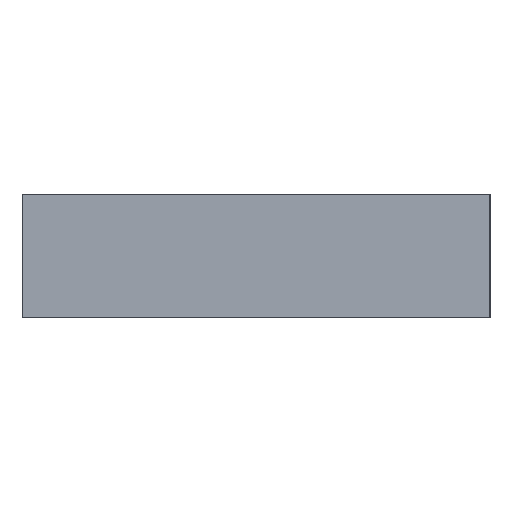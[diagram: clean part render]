
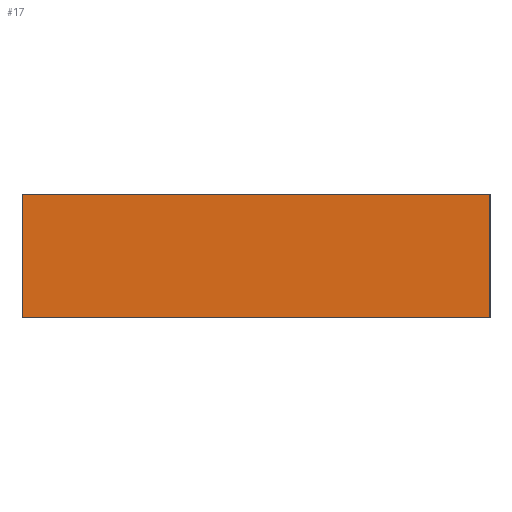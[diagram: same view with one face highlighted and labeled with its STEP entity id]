
A CAD part, left-side view. The second image highlights one B-rep face of the part: STEP entity #17.
In plain terms, the highlighted planar face has unit normal (-1, 0, 0).
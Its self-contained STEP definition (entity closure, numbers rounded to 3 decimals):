
#17 = ADVANCED_FACE('',(#18),#32,.F.);
#18 = FACE_BOUND('',#19,.F.);
#19 = EDGE_LOOP('',(#20,#55,#83,#111));
#20 = ORIENTED_EDGE('',*,*,#21,.F.);
#21 = EDGE_CURVE('',#22,#24,#26,.T.);
#22 = VERTEX_POINT('',#23);
#23 = CARTESIAN_POINT('',(-11.,-1.9,0.));
#24 = VERTEX_POINT('',#25);
#25 = CARTESIAN_POINT('',(-11.,-1.9,1.));
#26 = SURFACE_CURVE('',#27,(#31,#43),.PCURVE_S1.);
#27 = LINE('',#28,#29);
#28 = CARTESIAN_POINT('',(-11.,-1.9,0.));
#29 = VECTOR('',#30,1.);
#30 = DIRECTION('',(0.,0.,1.));
#31 = PCURVE('',#32,#37);
#32 = PLANE('',#33);
#33 = AXIS2_PLACEMENT_3D('',#34,#35,#36);
#34 = CARTESIAN_POINT('',(-11.,-1.9,0.));
#35 = DIRECTION('',(1.,0.,0.));
#36 = DIRECTION('',(0.,0.,1.));
#37 = DEFINITIONAL_REPRESENTATION('',(#38),#42);
#38 = LINE('',#39,#40);
#39 = CARTESIAN_POINT('',(0.,0.));
#40 = VECTOR('',#41,1.);
#41 = DIRECTION('',(1.,0.));
#42 = ( GEOMETRIC_REPRESENTATION_CONTEXT(2) 
PARAMETRIC_REPRESENTATION_CONTEXT() REPRESENTATION_CONTEXT('2D SPACE',''
  ) );
#43 = PCURVE('',#44,#49);
#44 = PLANE('',#45);
#45 = AXIS2_PLACEMENT_3D('',#46,#47,#48);
#46 = CARTESIAN_POINT('',(-11.,-1.9,0.));
#47 = DIRECTION('',(0.,1.,0.));
#48 = DIRECTION('',(0.,0.,1.));
#49 = DEFINITIONAL_REPRESENTATION('',(#50),#54);
#50 = LINE('',#51,#52);
#51 = CARTESIAN_POINT('',(0.,0.));
#52 = VECTOR('',#53,1.);
#53 = DIRECTION('',(1.,0.));
#54 = ( GEOMETRIC_REPRESENTATION_CONTEXT(2) 
PARAMETRIC_REPRESENTATION_CONTEXT() REPRESENTATION_CONTEXT('2D SPACE',''
  ) );
#55 = ORIENTED_EDGE('',*,*,#56,.T.);
#56 = EDGE_CURVE('',#22,#57,#59,.T.);
#57 = VERTEX_POINT('',#58);
#58 = CARTESIAN_POINT('',(-11.,1.9,0.));
#59 = SURFACE_CURVE('',#60,(#64,#71),.PCURVE_S1.);
#60 = LINE('',#61,#62);
#61 = CARTESIAN_POINT('',(-11.,-1.9,0.));
#62 = VECTOR('',#63,1.);
#63 = DIRECTION('',(0.,1.,0.));
#64 = PCURVE('',#32,#65);
#65 = DEFINITIONAL_REPRESENTATION('',(#66),#70);
#66 = LINE('',#67,#68);
#67 = CARTESIAN_POINT('',(0.,0.));
#68 = VECTOR('',#69,1.);
#69 = DIRECTION('',(0.,-1.));
#70 = ( GEOMETRIC_REPRESENTATION_CONTEXT(2) 
PARAMETRIC_REPRESENTATION_CONTEXT() REPRESENTATION_CONTEXT('2D SPACE',''
  ) );
#71 = PCURVE('',#72,#77);
#72 = PLANE('',#73);
#73 = AXIS2_PLACEMENT_3D('',#74,#75,#76);
#74 = CARTESIAN_POINT('',(-11.,-1.9,0.));
#75 = DIRECTION('',(0.,0.,1.));
#76 = DIRECTION('',(1.,0.,0.));
#77 = DEFINITIONAL_REPRESENTATION('',(#78),#82);
#78 = LINE('',#79,#80);
#79 = CARTESIAN_POINT('',(0.,0.));
#80 = VECTOR('',#81,1.);
#81 = DIRECTION('',(0.,1.));
#82 = ( GEOMETRIC_REPRESENTATION_CONTEXT(2) 
PARAMETRIC_REPRESENTATION_CONTEXT() REPRESENTATION_CONTEXT('2D SPACE',''
  ) );
#83 = ORIENTED_EDGE('',*,*,#84,.T.);
#84 = EDGE_CURVE('',#57,#85,#87,.T.);
#85 = VERTEX_POINT('',#86);
#86 = CARTESIAN_POINT('',(-11.,1.9,1.));
#87 = SURFACE_CURVE('',#88,(#92,#99),.PCURVE_S1.);
#88 = LINE('',#89,#90);
#89 = CARTESIAN_POINT('',(-11.,1.9,0.));
#90 = VECTOR('',#91,1.);
#91 = DIRECTION('',(0.,0.,1.));
#92 = PCURVE('',#32,#93);
#93 = DEFINITIONAL_REPRESENTATION('',(#94),#98);
#94 = LINE('',#95,#96);
#95 = CARTESIAN_POINT('',(0.,-3.8));
#96 = VECTOR('',#97,1.);
#97 = DIRECTION('',(1.,0.));
#98 = ( GEOMETRIC_REPRESENTATION_CONTEXT(2) 
PARAMETRIC_REPRESENTATION_CONTEXT() REPRESENTATION_CONTEXT('2D SPACE',''
  ) );
#99 = PCURVE('',#100,#105);
#100 = PLANE('',#101);
#101 = AXIS2_PLACEMENT_3D('',#102,#103,#104);
#102 = CARTESIAN_POINT('',(-11.,1.9,0.));
#103 = DIRECTION('',(0.,1.,0.));
#104 = DIRECTION('',(0.,0.,1.));
#105 = DEFINITIONAL_REPRESENTATION('',(#106),#110);
#106 = LINE('',#107,#108);
#107 = CARTESIAN_POINT('',(0.,0.));
#108 = VECTOR('',#109,1.);
#109 = DIRECTION('',(1.,0.));
#110 = ( GEOMETRIC_REPRESENTATION_CONTEXT(2) 
PARAMETRIC_REPRESENTATION_CONTEXT() REPRESENTATION_CONTEXT('2D SPACE',''
  ) );
#111 = ORIENTED_EDGE('',*,*,#112,.F.);
#112 = EDGE_CURVE('',#24,#85,#113,.T.);
#113 = SURFACE_CURVE('',#114,(#118,#125),.PCURVE_S1.);
#114 = LINE('',#115,#116);
#115 = CARTESIAN_POINT('',(-11.,-1.9,1.));
#116 = VECTOR('',#117,1.);
#117 = DIRECTION('',(0.,1.,0.));
#118 = PCURVE('',#32,#119);
#119 = DEFINITIONAL_REPRESENTATION('',(#120),#124);
#120 = LINE('',#121,#122);
#121 = CARTESIAN_POINT('',(1.,0.));
#122 = VECTOR('',#123,1.);
#123 = DIRECTION('',(0.,-1.));
#124 = ( GEOMETRIC_REPRESENTATION_CONTEXT(2) 
PARAMETRIC_REPRESENTATION_CONTEXT() REPRESENTATION_CONTEXT('2D SPACE',''
  ) );
#125 = PCURVE('',#126,#131);
#126 = PLANE('',#127);
#127 = AXIS2_PLACEMENT_3D('',#128,#129,#130);
#128 = CARTESIAN_POINT('',(-11.,-1.9,1.));
#129 = DIRECTION('',(0.,0.,1.));
#130 = DIRECTION('',(1.,0.,0.));
#131 = DEFINITIONAL_REPRESENTATION('',(#132),#136);
#132 = LINE('',#133,#134);
#133 = CARTESIAN_POINT('',(0.,0.));
#134 = VECTOR('',#135,1.);
#135 = DIRECTION('',(0.,1.));
#136 = ( GEOMETRIC_REPRESENTATION_CONTEXT(2) 
PARAMETRIC_REPRESENTATION_CONTEXT() REPRESENTATION_CONTEXT('2D SPACE',''
  ) );
